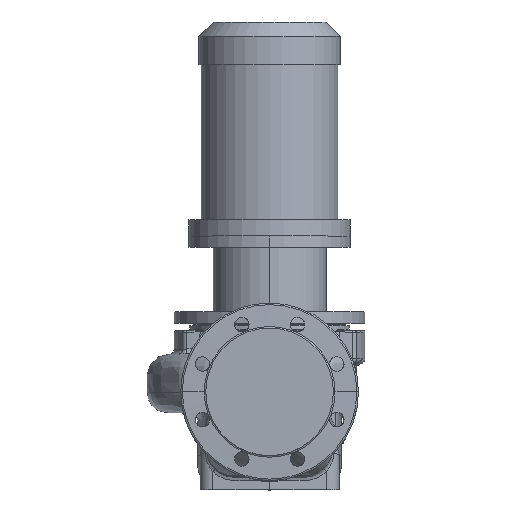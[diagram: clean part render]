
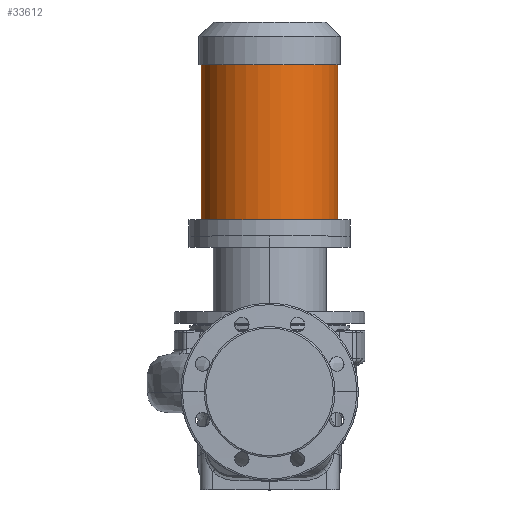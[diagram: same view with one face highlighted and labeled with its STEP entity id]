
A CAD part, top view. The second image highlights one B-rep face of the part: STEP entity #33612.
In plain terms, the highlighted cylindrical face has radius 84.5 mm (diameter 169 mm), a partial arc.
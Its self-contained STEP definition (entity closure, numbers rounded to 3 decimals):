
#616 = ORIENTED_EDGE ( 'NONE', *, *, #5437, .T. ) ;
#1263 = CYLINDRICAL_SURFACE ( 'NONE', #1302, 84.5 ) ;
#1302 = AXIS2_PLACEMENT_3D ( 'NONE', #28554, #2093, #23748 ) ;
#2093 = DIRECTION ( 'NONE',  ( 0., -1., 0. ) ) ;
#2734 = DIRECTION ( 'NONE',  ( 0., -1., 0. ) ) ;
#5437 = EDGE_CURVE ( 'NONE', #32886, #28423, #14235, .T. ) ;
#8535 = ORIENTED_EDGE ( 'NONE', *, *, #18803, .F. ) ;
#12383 = VERTEX_POINT ( 'NONE', #41902 ) ;
#13343 = CARTESIAN_POINT ( 'NONE',  ( -2.425, 132.993, 445. ) ) ;
#14235 = LINE ( 'NONE', #13343, #54940 ) ;
#15435 = EDGE_CURVE ( 'NONE', #26120, #12383, #23431, .T. ) ;
#18803 = EDGE_CURVE ( 'NONE', #12383, #28423, #39507, .T. ) ;
#20053 = DIRECTION ( 'NONE',  ( 0., -1., 0. ) ) ;
#23431 = LINE ( 'NONE', #55762, #57179 ) ;
#23748 = DIRECTION ( 'NONE',  ( -1., 0., 0. ) ) ;
#26120 = VERTEX_POINT ( 'NONE', #37950 ) ;
#26820 = ORIENTED_EDGE ( 'NONE', *, *, #48424, .T. ) ;
#27556 = DIRECTION ( 'NONE',  ( 0., -1., 0. ) ) ;
#28148 = CARTESIAN_POINT ( 'NONE',  ( 82.075, 152.993, 445. ) ) ;
#28423 = VERTEX_POINT ( 'NONE', #54961 ) ;
#28554 = CARTESIAN_POINT ( 'NONE',  ( 82.075, 132.993, 445. ) ) ;
#32781 = DIRECTION ( 'NONE',  ( -1., 0., 0. ) ) ;
#32886 = VERTEX_POINT ( 'NONE', #37981 ) ;
#33612 = ADVANCED_FACE ( 'NONE', ( #41319 ), #1263, .T. ) ;
#37950 = CARTESIAN_POINT ( 'NONE',  ( 166.575, 344.993, 445. ) ) ;
#37981 = CARTESIAN_POINT ( 'NONE',  ( -2.425, 344.993, 445. ) ) ;
#38467 = AXIS2_PLACEMENT_3D ( 'NONE', #28148, #20053, #32781 ) ;
#39314 = DIRECTION ( 'NONE',  ( -1., 0., 0. ) ) ;
#39507 = CIRCLE ( 'NONE', #38467, 84.5 ) ;
#41319 = FACE_OUTER_BOUND ( 'NONE', #43053, .T. ) ;
#41902 = CARTESIAN_POINT ( 'NONE',  ( 166.575, 152.993, 445. ) ) ;
#42470 = ORIENTED_EDGE ( 'NONE', *, *, #15435, .F. ) ;
#43053 = EDGE_LOOP ( 'NONE', ( #42470, #26820, #616, #8535 ) ) ;
#48424 = EDGE_CURVE ( 'NONE', #26120, #32886, #55689, .T. ) ;
#49688 = AXIS2_PLACEMENT_3D ( 'NONE', #57219, #27556, #39314 ) ;
#53431 = DIRECTION ( 'NONE',  ( 0., -1., 0. ) ) ;
#54940 = VECTOR ( 'NONE', #53431, 1000. ) ;
#54961 = CARTESIAN_POINT ( 'NONE',  ( -2.425, 152.993, 445. ) ) ;
#55689 = CIRCLE ( 'NONE', #49688, 84.5 ) ;
#55762 = CARTESIAN_POINT ( 'NONE',  ( 166.575, 132.993, 445. ) ) ;
#57179 = VECTOR ( 'NONE', #2734, 1000. ) ;
#57219 = CARTESIAN_POINT ( 'NONE',  ( 82.075, 344.993, 445. ) ) ;
